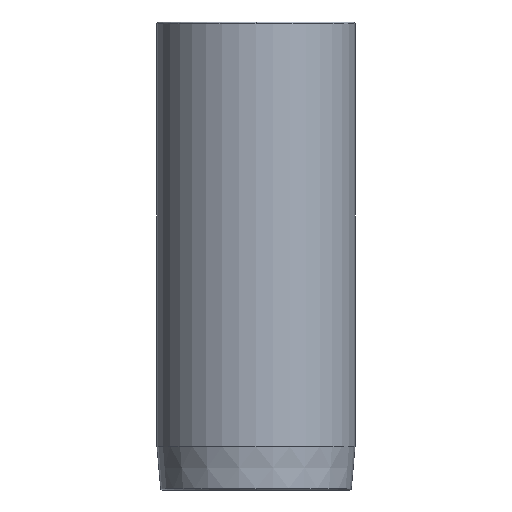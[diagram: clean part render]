
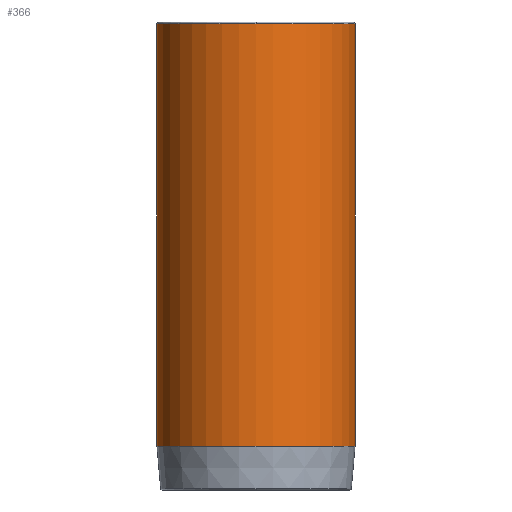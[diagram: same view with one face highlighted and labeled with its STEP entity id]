
A CAD part, front view. The second image highlights one B-rep face of the part: STEP entity #366.
In plain terms, the highlighted cylindrical face has radius 29.625 mm (diameter 59.25 mm), a partial arc.
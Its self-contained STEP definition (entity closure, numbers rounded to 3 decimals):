
#271=CARTESIAN_POINT('',(0.0,-29.625,68.5));
#272=VERTEX_POINT('',#271);
#298=CARTESIAN_POINT('',(-29.625,0.,68.5));
#299=VERTEX_POINT('',#298);
#307=CARTESIAN_POINT('',(0.0,0.,68.5));
#308=DIRECTION('',(0.0,0.0,1.0));
#309=DIRECTION('',(1.0,0.0,0.0));
#310=AXIS2_PLACEMENT_3D('',#307,#308,#309);
#311=CIRCLE('',#310,29.625);
#312=EDGE_CURVE('',#299,#272,#311,.T.);
#317=CARTESIAN_POINT('',(0.0,0.,5.272));
#318=DIRECTION('',(0.0,0.,1.0));
#319=DIRECTION('',(1.0,0.0,0.0));
#320=AXIS2_PLACEMENT_3D('',#317,#318,#319);
#321=CYLINDRICAL_SURFACE('',#320,29.625);
#322=CARTESIAN_POINT('',(29.625,0.,68.5));
#323=VERTEX_POINT('',#322);
#324=CARTESIAN_POINT('',(29.625,0.,-57.956));
#325=VERTEX_POINT('',#324);
#326=CARTESIAN_POINT('',(29.625,0.,68.5));
#327=DIRECTION('',(0.0,0.0,-1.0));
#328=VECTOR('',#327,126.456);
#329=LINE('',#326,#328);
#330=EDGE_CURVE('',#323,#325,#329,.T.);
#331=ORIENTED_EDGE('',*,*,#330,.F.);
#332=CARTESIAN_POINT('',(0.0,0.,68.5));
#333=DIRECTION('',(0.0,0.0,1.0));
#334=DIRECTION('',(1.0,0.0,0.0));
#335=AXIS2_PLACEMENT_3D('',#332,#333,#334);
#336=CIRCLE('',#335,29.625);
#337=EDGE_CURVE('',#272,#323,#336,.T.);
#338=ORIENTED_EDGE('',*,*,#337,.F.);
#339=ORIENTED_EDGE('',*,*,#312,.F.);
#340=CARTESIAN_POINT('',(-29.625,0.,-57.956));
#341=VERTEX_POINT('',#340);
#342=CARTESIAN_POINT('',(-29.625,0.,68.5));
#343=DIRECTION('',(0.0,0.0,-1.0));
#344=VECTOR('',#343,126.456);
#345=LINE('',#342,#344);
#346=EDGE_CURVE('',#299,#341,#345,.T.);
#347=ORIENTED_EDGE('',*,*,#346,.T.);
#348=CARTESIAN_POINT('',(0.0,-29.625,-57.956));
#349=VERTEX_POINT('',#348);
#350=CARTESIAN_POINT('',(0.0,0.,-57.956));
#351=DIRECTION('',(0.0,0.0,1.0));
#352=DIRECTION('',(1.0,0.0,0.0));
#353=AXIS2_PLACEMENT_3D('',#350,#351,#352);
#354=CIRCLE('',#353,29.625);
#355=EDGE_CURVE('',#341,#349,#354,.T.);
#356=ORIENTED_EDGE('',*,*,#355,.T.);
#357=CARTESIAN_POINT('',(0.0,0.,-57.956));
#358=DIRECTION('',(0.0,0.0,1.0));
#359=DIRECTION('',(1.0,0.0,0.0));
#360=AXIS2_PLACEMENT_3D('',#357,#358,#359);
#361=CIRCLE('',#360,29.625);
#362=EDGE_CURVE('',#349,#325,#361,.T.);
#363=ORIENTED_EDGE('',*,*,#362,.T.);
#364=EDGE_LOOP('',(#331,#338,#339,#347,#356,#363));
#365=FACE_OUTER_BOUND('',#364,.T.);
#366=ADVANCED_FACE('',(#365),#321,.T.);
